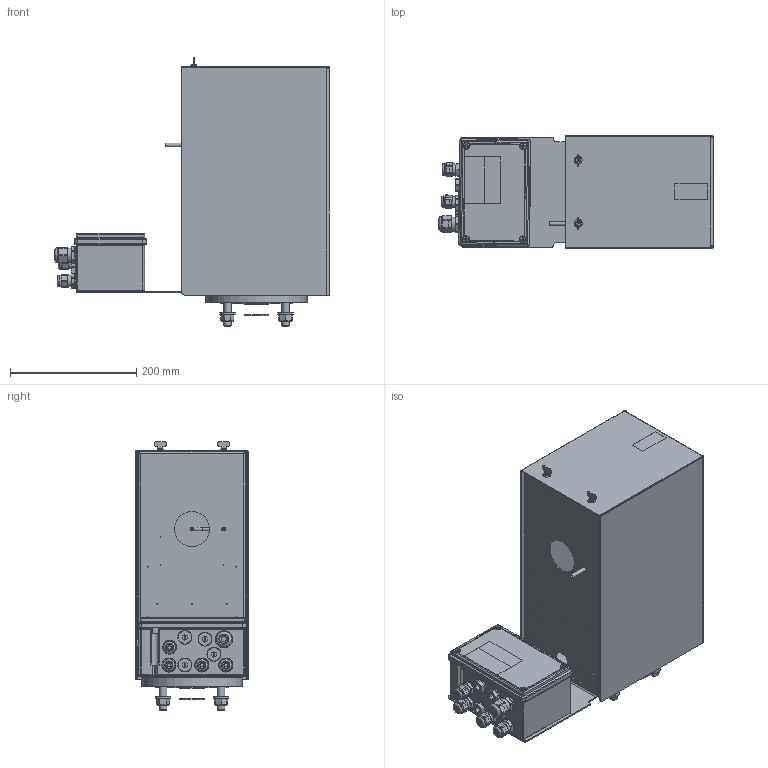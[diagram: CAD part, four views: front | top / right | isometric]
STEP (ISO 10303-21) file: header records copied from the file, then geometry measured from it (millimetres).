
FILE_DESCRIPTION(/* description */ ('Unknown'),/* implementation_level */ '2;1');
FILE_NAME(/* name */ 'JCT_00003370#00',/* time_stamp */ '2025-05-14T13:39:55+02:00',/* author */ ('Unknown'),/* organization */ ('Unknown'),/* preprocessor_version */ 'ST-DEVELOPER v19.4',/* originating_system */ 'Solid Edge',/* authorisation */ 'Unknown');
FILE_SCHEMA (('AUTOMOTIVE_DESIGN {1 0 10303 214 3 1 1}'));
Products named in the file (65): JCT_00003370#00; STD_00000177#02; JCT_00003364#00; JCT_00002057#01; JCT_00002050#00; JCT_00002045#00; JCT_00002050#00_632_2 947_Ausprägung 8_oa_0; JCT_00002050#00_632_2 947_Ausprägung 8_oa_1; JCT_00002050#00_632_2 947_Ausprägung 8_oa_2; JCT_00002050#00_632_2 947_Ausprägung 8_oa_3; JCT_00002050#00_632_2 947_Ausprägung 8_oa_4; JCT_00002050#00_632_2 947_Ausprägung 8_oa_5; JCT_00002050#00_632_2 947_Ausprägung 8_oa_6; JCT_00002050#00_632_2 947_Ausprägung 8_oa_7; JCT_00002051#00; JCT_00002048#00; STD_00000748#00; JCT_00002051#00_557_1 888_Ausprägung 5_oa_8; JCT_00002051#00_557_1 888_Ausprägung 5_oa_9; JCT_00002051#00_557_1 888_Ausprägung 5_oa_10; JCT_00002051#00_557_1 888_Ausprägung 5_oa_11; JCT_00002051#00_557_1 888_Ausprägung 5_oa_12; STD_00000724#00; JCT_00000926#01; JCT_00000698#02; JCT_00000947#02; STD_00000175#00; STD_00000740#00; STD_00000946#00; STD_00000943#00; STD_00000945#01; STD_00000944#00; STD_00000952#00; STD_00000953#00; STD_00003632#00; STD_00001126#05_oa_13; STD_00001127#00_oa_14; STD_00001134#00_oa_15; STD_00001136#00_oa_16; STD_00001135#00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
Assembly tree (96 placements, depth 5):
  JCT_00003370#00
    STD_00000177#02
    JCT_00003364#00
    JCT_00002057#01
      JCT_00002050#00
        JCT_00002045#00
        JCT_00002050#00_632_2 947_Ausprägung 8_oa_0
        JCT_00002050#00_632_2 947_Ausprägung 8_oa_1
        JCT_00002050#00_632_2 947_Ausprägung 8_oa_2
        JCT_00002050#00_632_2 947_Ausprägung 8_oa_3
        JCT_00002050#00_632_2 947_Ausprägung 8_oa_4
        JCT_00002050#00_632_2 947_Ausprägung 8_oa_5
        JCT_00002050#00_632_2 947_Ausprägung 8_oa_6
        JCT_00002050#00_632_2 947_Ausprägung 8_oa_7
      JCT_00002051#00
        JCT_00002048#00
        STD_00000748#00
        JCT_00002051#00_557_1 888_Ausprägung 5_oa_8
        JCT_00002051#00_557_1 888_Ausprägung 5_oa_9
        JCT_00002051#00_557_1 888_Ausprägung 5_oa_10
        JCT_00002051#00_557_1 888_Ausprägung 5_oa_11
        JCT_00002051#00_557_1 888_Ausprägung 5_oa_12
        STD_00000724#00  x2
    JCT_00000926#01
    JCT_00000698#02
    JCT_00000947#02
      STD_00000175#00  x8
      STD_00000740#00  x4
      STD_00000946#00
      STD_00000943#00  x4
      STD_00000945#01
      STD_00000944#00
    STD_00000952#00  x2
    STD_00000953#00  x2
    STD_00003632#00
    STD_00001126#05_oa_13
      STD_00001127#00_oa_14
        STD_00001134#00_oa_15
          STD_00001136#00_oa_16
          STD_00001135#00  x4
        STD_00001128#00_oa_17
          STD_00001130#00
          STD_00001129#00
        STD_00001131#00  x4
          STD_00001132#00
          STD_00001133#00
      STD_00001148#00  x2
        STD_00001153#00
        STD_00001149#00
        STD_00001150#00
        STD_00001151#00
        STD_00001152#00
        STD_00001154#00
      STD_00001156#00
        STD_00001157#00
        STD_00001158#00
        STD_00001159#00
        STD_00001162#00
        STD_00001161#00
        STD_00001160#00
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Bounding box: 433.98 x 178 x 426.62 mm (x, y, z)
Volume: 1375112.3 mm3; surface area: 1229849.1 mm2
Topology: 104 solids, 104 shells, 4777 faces, 11905 edges, 7744 vertices
Faces by surface type: plane 2659, cylinder 802, bspline 799, cone 312, torus 189, sphere 16
Full cylindrical faces by diameter (mm): 0.5 x1, 1 x19, 1.48 x4, 3.2 x4, 4 x5, 4.77 x4, 4.917 x4, 5 x8, 5.3 x2, 5.35 x1, 5.4 x64, 6 x12, 6.3 x2, 6.4 x2, 6.5 x5, 6.6 x4, 7 x2, 7.4 x8, 7.5 x4, 8 x11, 8.88 x1, 9.3 x4, 9.6 x8, 9.853 x4, 10.106 x4, 10.4 x4, 10.5 x4, 11 x4, 11.3 x4, 11.7 x2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
Entity records: 151545 total; most frequent: CARTESIAN_POINT 65964, ORIENTED_EDGE 17430, DIRECTION 14621, EDGE_CURVE 8715, VERTEX_POINT 5883, LINE 5079, VECTOR 5079, AXIS2_PLACEMENT_3D 4771
